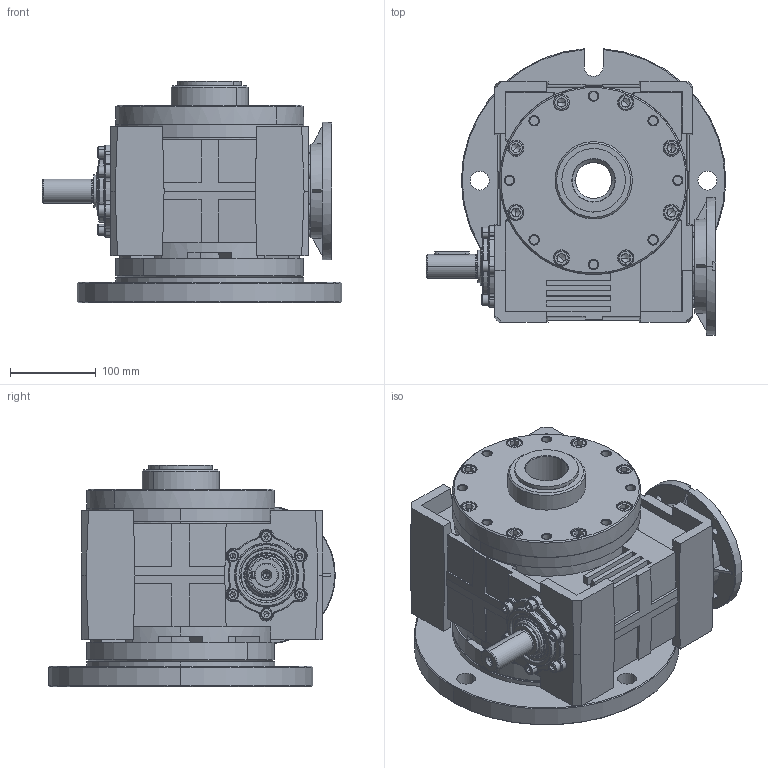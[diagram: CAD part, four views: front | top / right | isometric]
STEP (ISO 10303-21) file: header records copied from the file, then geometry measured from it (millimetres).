
FILE_DESCRIPTION (( 'STEP AP203' ), '1' );
FILE_NAME ('MRP-100_160-28_WBS_SP_K-1.STEP', '2024-04-04T12:44:56', ( '' ), ( '' ), 'SwSTEP 2.0', 'SolidWorks 2022', '' );
FILE_SCHEMA (( 'CONFIG_CONTROL_DESIGN' ));
Products named in the file (1): MRP-100_160-28_WBS_SP_K-1
Bounding box: 349 x 333.83 x 258 mm (x, y, z)
Volume: 11843273.4 mm3; surface area: 860023.4 mm2
Topology: 48 solids, 73 shells, 2174 faces, 5100 edges, 3122 vertices
Faces by surface type: plane 993, cylinder 462, cone 443, torus 216, bspline 60
Entity records: 66167 total; most frequent: CARTESIAN_POINT 16036, DIRECTION 10951, ORIENTED_EDGE 10020, EDGE_CURVE 5010, AXIS2_PLACEMENT_3D 4288, VERTEX_POINT 3122, EDGE_LOOP 2400, VECTOR 2375
